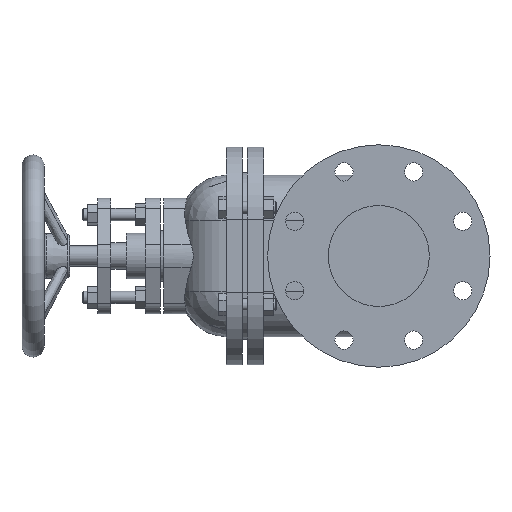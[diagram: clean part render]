
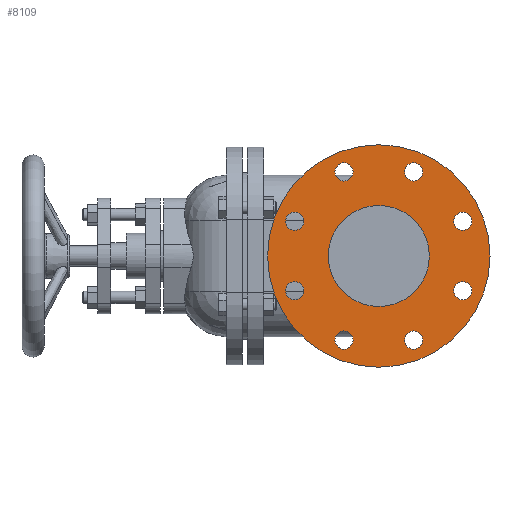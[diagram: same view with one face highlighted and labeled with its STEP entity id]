
A CAD part, left-side view. The second image highlights one B-rep face of the part: STEP entity #8109.
In plain terms, the highlighted planar face has unit normal (-1, 0, 0).
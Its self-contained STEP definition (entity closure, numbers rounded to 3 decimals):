
#173=FACE_BOUND('',#1520,.T.);
#174=FACE_BOUND('',#1521,.T.);
#175=FACE_BOUND('',#1522,.T.);
#176=FACE_BOUND('',#1523,.T.);
#177=FACE_BOUND('',#1524,.T.);
#178=FACE_BOUND('',#1525,.T.);
#179=FACE_BOUND('',#1526,.T.);
#180=FACE_BOUND('',#1527,.T.);
#181=FACE_BOUND('',#1528,.T.);
#452=PLANE('',#8663);
#1048=FACE_OUTER_BOUND('',#1519,.T.);
#1519=EDGE_LOOP('',(#7044));
#1520=EDGE_LOOP('',(#7045));
#1521=EDGE_LOOP('',(#7046));
#1522=EDGE_LOOP('',(#7047));
#1523=EDGE_LOOP('',(#7048));
#1524=EDGE_LOOP('',(#7049));
#1525=EDGE_LOOP('',(#7050));
#1526=EDGE_LOOP('',(#7051));
#1527=EDGE_LOOP('',(#7052));
#1528=EDGE_LOOP('',(#7053));
#3013=CIRCLE('',#8166,9.);
#3015=CIRCLE('',#8169,9.);
#3017=CIRCLE('',#8172,9.);
#3019=CIRCLE('',#8175,9.);
#3167=CIRCLE('',#8636,9.);
#3169=CIRCLE('',#8639,9.);
#3171=CIRCLE('',#8642,9.);
#3173=CIRCLE('',#8645,9.);
#3174=CIRCLE('',#8647,50.);
#3183=CIRCLE('',#8662,110.);
#3207=VERTEX_POINT('',#10526);
#3209=VERTEX_POINT('',#10532);
#3211=VERTEX_POINT('',#10538);
#3213=VERTEX_POINT('',#10544);
#3885=VERTEX_POINT('',#14338);
#3887=VERTEX_POINT('',#14344);
#3889=VERTEX_POINT('',#14350);
#3891=VERTEX_POINT('',#14356);
#3892=VERTEX_POINT('',#14360);
#3899=VERTEX_POINT('',#14384);
#3940=EDGE_CURVE('',#3207,#3207,#3013,.T.);
#3943=EDGE_CURVE('',#3209,#3209,#3015,.T.);
#3946=EDGE_CURVE('',#3211,#3211,#3017,.T.);
#3949=EDGE_CURVE('',#3213,#3213,#3019,.T.);
#4960=EDGE_CURVE('',#3885,#3885,#3167,.T.);
#4963=EDGE_CURVE('',#3887,#3887,#3169,.T.);
#4966=EDGE_CURVE('',#3889,#3889,#3171,.T.);
#4969=EDGE_CURVE('',#3891,#3891,#3173,.T.);
#4970=EDGE_CURVE('',#3892,#3892,#3174,.T.);
#4982=EDGE_CURVE('',#3899,#3899,#3183,.T.);
#7044=ORIENTED_EDGE('',*,*,#4982,.F.);
#7045=ORIENTED_EDGE('',*,*,#4966,.F.);
#7046=ORIENTED_EDGE('',*,*,#4963,.F.);
#7047=ORIENTED_EDGE('',*,*,#4960,.F.);
#7048=ORIENTED_EDGE('',*,*,#3940,.F.);
#7049=ORIENTED_EDGE('',*,*,#3943,.F.);
#7050=ORIENTED_EDGE('',*,*,#3946,.F.);
#7051=ORIENTED_EDGE('',*,*,#3949,.F.);
#7052=ORIENTED_EDGE('',*,*,#4969,.F.);
#7053=ORIENTED_EDGE('',*,*,#4970,.T.);
#8109=ADVANCED_FACE('',(#1048,#173,#174,#175,#176,#177,#178,#179,#180,#181),
#452,.T.);
#8166=AXIS2_PLACEMENT_3D('',#10528,#8732,#8733);
#8169=AXIS2_PLACEMENT_3D('',#10534,#8739,#8740);
#8172=AXIS2_PLACEMENT_3D('',#10540,#8746,#8747);
#8175=AXIS2_PLACEMENT_3D('',#10546,#8753,#8754);
#8636=AXIS2_PLACEMENT_3D('',#14340,#10345,#10346);
#8639=AXIS2_PLACEMENT_3D('',#14346,#10352,#10353);
#8642=AXIS2_PLACEMENT_3D('',#14352,#10359,#10360);
#8645=AXIS2_PLACEMENT_3D('',#14358,#10366,#10367);
#8647=AXIS2_PLACEMENT_3D('',#14361,#10370,#10371);
#8662=AXIS2_PLACEMENT_3D('',#14386,#10403,#10404);
#8663=AXIS2_PLACEMENT_3D('',#14387,#10405,#10406);
#8732=DIRECTION('center_axis',(-1.,0.,0.));
#8733=DIRECTION('ref_axis',(0.,-0.664,0.748));
#8739=DIRECTION('center_axis',(-1.,0.,0.));
#8740=DIRECTION('ref_axis',(0.,-0.998,0.06));
#8746=DIRECTION('center_axis',(-1.,0.,0.));
#8747=DIRECTION('ref_axis',(0.,-0.748,-0.664));
#8753=DIRECTION('center_axis',(-1.,0.,0.));
#8754=DIRECTION('ref_axis',(0.,-0.06,-0.998));
#10345=DIRECTION('center_axis',(-1.,0.,0.));
#10346=DIRECTION('ref_axis',(0.,0.06,0.998));
#10352=DIRECTION('center_axis',(-1.,0.,0.));
#10353=DIRECTION('ref_axis',(0.,0.748,0.664));
#10359=DIRECTION('center_axis',(-1.,0.,0.));
#10360=DIRECTION('ref_axis',(0.,0.998,-0.06));
#10366=DIRECTION('center_axis',(-1.,0.,0.));
#10367=DIRECTION('ref_axis',(0.,0.998,0.06));
#10370=DIRECTION('center_axis',(1.,0.,0.));
#10371=DIRECTION('ref_axis',(0.,0.,-1.));
#10403=DIRECTION('center_axis',(1.,0.,0.));
#10404=DIRECTION('ref_axis',(0.,0.,1.));
#10405=DIRECTION('center_axis',(-1.,0.,0.));
#10406=DIRECTION('ref_axis',(0.,0.,1.));
#10526=CARTESIAN_POINT('',(-195.375,-156.206,43.442));
#10528=CARTESIAN_POINT('Origin',(-195.375,-156.206,34.442));
#10532=CARTESIAN_POINT('',(-195.375,-156.206,-25.442));
#10534=CARTESIAN_POINT('Origin',(-195.375,-156.206,-34.442));
#10538=CARTESIAN_POINT('',(-195.375,-107.498,-74.149));
#10540=CARTESIAN_POINT('Origin',(-195.375,-107.498,-83.149));
#10544=CARTESIAN_POINT('',(-195.375,-38.615,-74.149));
#10546=CARTESIAN_POINT('Origin',(-195.375,-38.615,-83.149));
#14338=CARTESIAN_POINT('',(-195.375,-107.498,92.149));
#14340=CARTESIAN_POINT('Origin',(-195.375,-107.498,83.149));
#14344=CARTESIAN_POINT('',(-195.375,-38.615,92.149));
#14346=CARTESIAN_POINT('Origin',(-195.375,-38.615,83.149));
#14350=CARTESIAN_POINT('',(-195.375,10.092,43.442));
#14352=CARTESIAN_POINT('Origin',(-195.375,10.092,34.442));
#14356=CARTESIAN_POINT('',(-195.375,10.092,-25.442));
#14358=CARTESIAN_POINT('Origin',(-195.375,10.092,-34.442));
#14360=CARTESIAN_POINT('',(-195.375,-73.057,50.));
#14361=CARTESIAN_POINT('Origin',(-195.375,-73.057,0.));
#14384=CARTESIAN_POINT('',(-195.375,-183.057,0.));
#14386=CARTESIAN_POINT('Origin',(-195.375,-73.057,0.));
#14387=CARTESIAN_POINT('Origin',(-195.375,-33.557,0.));
